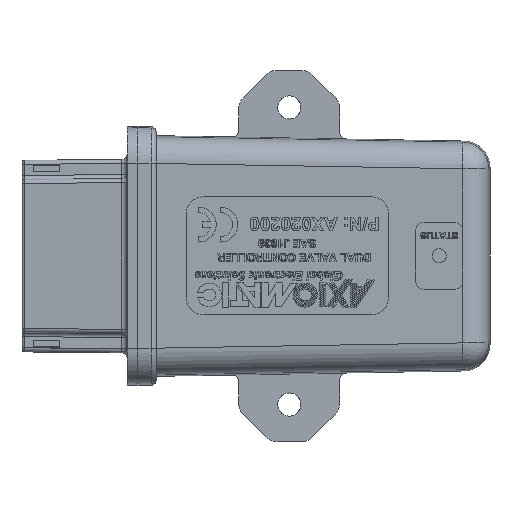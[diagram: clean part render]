
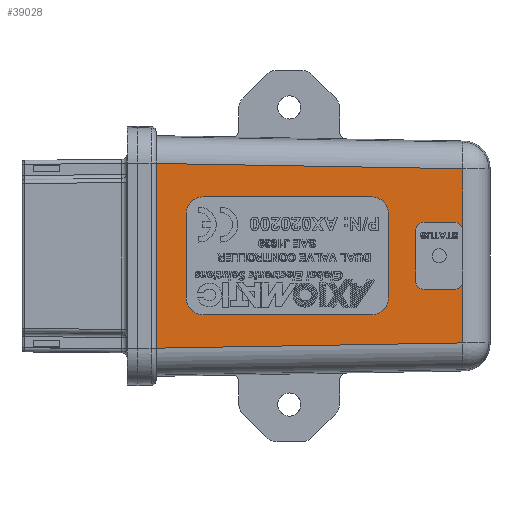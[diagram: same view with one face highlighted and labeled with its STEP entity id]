
A CAD part, top view. The second image highlights one B-rep face of the part: STEP entity #39028.
In plain terms, the highlighted planar face has unit normal (0.018, 0, 1).
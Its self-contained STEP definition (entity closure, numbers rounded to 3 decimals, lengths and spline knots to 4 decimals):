
#1989=FACE_BOUND($,#7408,.T.);
#1990=FACE_BOUND($,#7409,.T.);
#2603=CIRCLE($,#40746,0.125);
#2604=CIRCLE($,#40749,0.125);
#2605=CIRCLE($,#40752,0.125);
#2606=CIRCLE($,#40755,0.125);
#2790=CIRCLE($,#41369,0.062);
#2791=CIRCLE($,#41370,0.062);
#2792=CIRCLE($,#41371,0.062);
#2793=CIRCLE($,#41372,0.062);
#7408=EDGE_LOOP($,(#33091,#33092,#33093,#33094,#33095,#33096,#33097,#33098));
#7409=EDGE_LOOP($,(#33099,#33100,#33101,#33102,#33103,#33104,#33105,#33106,
#33107,#33108,#33109,#33110));
#10351=LINE($,#64358,#13834);
#10354=LINE($,#64366,#13837);
#10357=LINE($,#64374,#13840);
#10360=LINE($,#64381,#13843);
#10712=LINE($,#68935,#14195);
#10714=LINE($,#68938,#14197);
#10753=LINE($,#70014,#14236);
#10789=LINE($,#70117,#14272);
#10797=LINE($,#70284,#14280);
#10826=LINE($,#70458,#14309);
#10827=LINE($,#70462,#14310);
#10828=LINE($,#70466,#14311);
#13834=VECTOR($,#47423,1.25);
#13837=VECTOR($,#47432,0.625);
#13840=VECTOR($,#47441,1.25);
#13843=VECTOR($,#47450,0.625);
#14195=VECTOR($,#48640,0.4584);
#14197=VECTOR($,#48642,0.4584);
#14236=VECTOR($,#48763,1.3707);
#14272=VECTOR($,#48893,2.2743);
#14280=VECTOR($,#48923,2.2743);
#14309=VECTOR($,#49142,0.224);
#14310=VECTOR($,#49145,0.376);
#14311=VECTOR($,#49148,0.224);
#17122=VERTEX_POINT($,#64351);
#17123=VERTEX_POINT($,#64352);
#17124=VERTEX_POINT($,#64357);
#17125=VERTEX_POINT($,#64361);
#17126=VERTEX_POINT($,#64365);
#17127=VERTEX_POINT($,#64369);
#17128=VERTEX_POINT($,#64373);
#17129=VERTEX_POINT($,#64377);
#17613=VERTEX_POINT($,#68927);
#17616=VERTEX_POINT($,#68932);
#17617=VERTEX_POINT($,#68934);
#17618=VERTEX_POINT($,#68936);
#17669=VERTEX_POINT($,#70011);
#17670=VERTEX_POINT($,#70013);
#17739=VERTEX_POINT($,#70455);
#17740=VERTEX_POINT($,#70457);
#17741=VERTEX_POINT($,#70459);
#17742=VERTEX_POINT($,#70461);
#17743=VERTEX_POINT($,#70463);
#17744=VERTEX_POINT($,#70465);
#21944=EDGE_CURVE($,#17122,#17123,#2603,.T.);
#21947=EDGE_CURVE($,#17123,#17124,#10351,.T.);
#21949=EDGE_CURVE($,#17124,#17125,#2604,.T.);
#21951=EDGE_CURVE($,#17125,#17126,#10354,.T.);
#21953=EDGE_CURVE($,#17126,#17127,#2605,.T.);
#21955=EDGE_CURVE($,#17127,#17128,#10357,.T.);
#21957=EDGE_CURVE($,#17128,#17129,#2606,.T.);
#21959=EDGE_CURVE($,#17129,#17122,#10360,.T.);
#22682=EDGE_CURVE($,#17616,#17617,#10712,.T.);
#22684=EDGE_CURVE($,#17618,#17613,#10714,.T.);
#22762=EDGE_CURVE($,#17670,#17669,#10753,.T.);
#22815=EDGE_CURVE($,#17670,#17616,#10789,.T.);
#22824=EDGE_CURVE($,#17613,#17669,#10797,.T.);
#22897=EDGE_CURVE($,#17618,#17739,#2790,.T.);
#22898=EDGE_CURVE($,#17739,#17740,#10826,.T.);
#22899=EDGE_CURVE($,#17740,#17741,#2791,.T.);
#22900=EDGE_CURVE($,#17741,#17742,#10827,.T.);
#22901=EDGE_CURVE($,#17742,#17743,#2792,.T.);
#22902=EDGE_CURVE($,#17743,#17744,#10828,.T.);
#22903=EDGE_CURVE($,#17744,#17617,#2793,.T.);
#33091=ORIENTED_EDGE($,*,*,#21944,.T.);
#33092=ORIENTED_EDGE($,*,*,#21947,.T.);
#33093=ORIENTED_EDGE($,*,*,#21949,.T.);
#33094=ORIENTED_EDGE($,*,*,#21951,.T.);
#33095=ORIENTED_EDGE($,*,*,#21953,.T.);
#33096=ORIENTED_EDGE($,*,*,#21955,.T.);
#33097=ORIENTED_EDGE($,*,*,#21957,.T.);
#33098=ORIENTED_EDGE($,*,*,#21959,.T.);
#33099=ORIENTED_EDGE($,*,*,#22897,.T.);
#33100=ORIENTED_EDGE($,*,*,#22898,.T.);
#33101=ORIENTED_EDGE($,*,*,#22899,.T.);
#33102=ORIENTED_EDGE($,*,*,#22900,.T.);
#33103=ORIENTED_EDGE($,*,*,#22901,.T.);
#33104=ORIENTED_EDGE($,*,*,#22902,.T.);
#33105=ORIENTED_EDGE($,*,*,#22903,.T.);
#33106=ORIENTED_EDGE($,*,*,#22682,.F.);
#33107=ORIENTED_EDGE($,*,*,#22815,.F.);
#33108=ORIENTED_EDGE($,*,*,#22762,.T.);
#33109=ORIENTED_EDGE($,*,*,#22824,.F.);
#33110=ORIENTED_EDGE($,*,*,#22684,.F.);
#34930=PLANE($,#41368);
#39028=ADVANCED_FACE($,(#1989,#1990),#34930,.T.);
#40746=AXIS2_PLACEMENT_3D($,#64353,#47417,#47418);
#40749=AXIS2_PLACEMENT_3D($,#64362,#47427,#47428);
#40752=AXIS2_PLACEMENT_3D($,#64370,#47436,#47437);
#40755=AXIS2_PLACEMENT_3D($,#64378,#47445,#47446);
#41368=AXIS2_PLACEMENT_3D($,#70454,#49138,#49139);
#41369=AXIS2_PLACEMENT_3D($,#70456,#49140,#49141);
#41370=AXIS2_PLACEMENT_3D($,#70460,#49143,#49144);
#41371=AXIS2_PLACEMENT_3D($,#70464,#49146,#49147);
#41372=AXIS2_PLACEMENT_3D($,#70467,#49149,#49150);
#47417=DIRECTION('center_axis',(-0.017,0.,
-1.));
#47418=DIRECTION('ref_axis',(0.,1.,0.));
#47423=DIRECTION($,(1.,0.,-0.017));
#47427=DIRECTION('center_axis',(-0.017,0.,
-1.));
#47428=DIRECTION('ref_axis',(1.,0.,-0.017));
#47432=DIRECTION($,(0.,-1.,0.));
#47436=DIRECTION('center_axis',(-0.017,0.,
-1.));
#47437=DIRECTION('ref_axis',(0.,-1.,0.));
#47441=DIRECTION($,(-1.,0.,0.017));
#47445=DIRECTION('center_axis',(-0.017,0.,
-1.));
#47446=DIRECTION('ref_axis',(-1.,0.,0.017));
#47450=DIRECTION($,(0.,1.,0.));
#48640=DIRECTION($,(0.,-1.,0.));
#48642=DIRECTION($,(0.,-1.,0.));
#48763=DIRECTION($,(0.,-1.,0.));
#48893=DIRECTION($,(1.,-0.017,-0.017));
#48923=DIRECTION($,(-1.,-0.017,0.017));
#49138=DIRECTION('center_axis',(0.017,0.,
1.));
#49139=DIRECTION('ref_axis',(0.,-1.,0.));
#49140=DIRECTION('center_axis',(-0.017,0.,
-1.));
#49141=DIRECTION('ref_axis',(0.707,-0.707,-0.012));
#49142=DIRECTION($,(-1.,0.,0.017));
#49143=DIRECTION('center_axis',(-0.017,0.,
-1.));
#49144=DIRECTION('ref_axis',(-0.707,-0.707,0.012));
#49145=DIRECTION($,(0.,1.,0.));
#49146=DIRECTION('center_axis',(-0.017,0.,
-1.));
#49147=DIRECTION('ref_axis',(-0.707,0.707,0.012));
#49148=DIRECTION($,(1.,0.,-0.017));
#49149=DIRECTION('center_axis',(-0.017,0.,
-1.));
#49150=DIRECTION('ref_axis',(0.707,0.707,-0.012));
#64351=CARTESIAN_POINT('',(-0.9143,0.3125,0.8588));
#64352=CARTESIAN_POINT('',(-0.7893,0.4375,0.8566));
#64353=CARTESIAN_POINT('Origin',(-0.7893,0.3125,0.8566));
#64357=CARTESIAN_POINT('',(0.4605,0.4375,0.8348));
#64358=CARTESIAN_POINT($,(-0.4073,0.4375,0.85));
#64361=CARTESIAN_POINT('',(0.5855,0.3125,0.8326));
#64362=CARTESIAN_POINT('Origin',(0.4605,0.3125,0.8348));
#64365=CARTESIAN_POINT('',(0.5855,-0.3125,0.8326));
#64366=CARTESIAN_POINT($,(0.5855,-0.604,0.8326));
#64369=CARTESIAN_POINT('',(0.4605,-0.4375,0.8348));
#64370=CARTESIAN_POINT('Origin',(0.4605,-0.3125,0.8348));
#64373=CARTESIAN_POINT('',(-0.7893,-0.4375,0.8566));
#64374=CARTESIAN_POINT($,(-1.0322,-0.4375,0.8609));
#64377=CARTESIAN_POINT('',(-0.9143,-0.3125,0.8588));
#64378=CARTESIAN_POINT('Origin',(-0.7893,-0.3125,0.8566));
#64381=CARTESIAN_POINT($,(-0.9143,-0.2915,0.8588));
#68927=CARTESIAN_POINT('',(1.1364,-0.6464,0.823));
#68932=CARTESIAN_POINT('',(1.1364,0.6464,0.823));
#68934=CARTESIAN_POINT('',(1.1364,0.188,0.823));
#68935=CARTESIAN_POINT($,(1.1364,-0.4478,0.823));
#68936=CARTESIAN_POINT('',(1.1364,-0.188,0.823));
#68938=CARTESIAN_POINT($,(1.1364,-0.4478,0.823));
#70011=CARTESIAN_POINT('',(-1.1372,-0.6854,0.8627));
#70013=CARTESIAN_POINT('',(-1.1372,0.6854,0.8627));
#70014=CARTESIAN_POINT($,(-1.1372,-0.4478,0.8627));
#70117=CARTESIAN_POINT($,(-1.2632,0.6875,0.8649));
#70284=CARTESIAN_POINT($,(-1.2686,-0.6876,0.865));
#70454=CARTESIAN_POINT('Origin',(-1.275,-0.8955,0.8651));
#70455=CARTESIAN_POINT('',(1.0744,-0.25,0.8241));
#70456=CARTESIAN_POINT('Origin',(1.0744,-0.188,0.8241));
#70457=CARTESIAN_POINT('',(0.8504,-0.25,0.828));
#70458=CARTESIAN_POINT($,(-0.2433,-0.25,0.8471));
#70459=CARTESIAN_POINT('',(0.7884,-0.188,0.8291));
#70460=CARTESIAN_POINT('Origin',(0.8504,-0.188,0.828));
#70461=CARTESIAN_POINT('',(0.7884,0.188,0.8291));
#70462=CARTESIAN_POINT($,(0.7884,-0.3227,0.8291));
#70463=CARTESIAN_POINT('',(0.8504,0.25,0.828));
#70464=CARTESIAN_POINT('Origin',(0.8504,0.188,0.828));
#70465=CARTESIAN_POINT('',(1.0744,0.25,0.8241));
#70466=CARTESIAN_POINT($,(-0.0224,0.25,0.8433));
#70467=CARTESIAN_POINT('Origin',(1.0744,0.188,0.8241));
